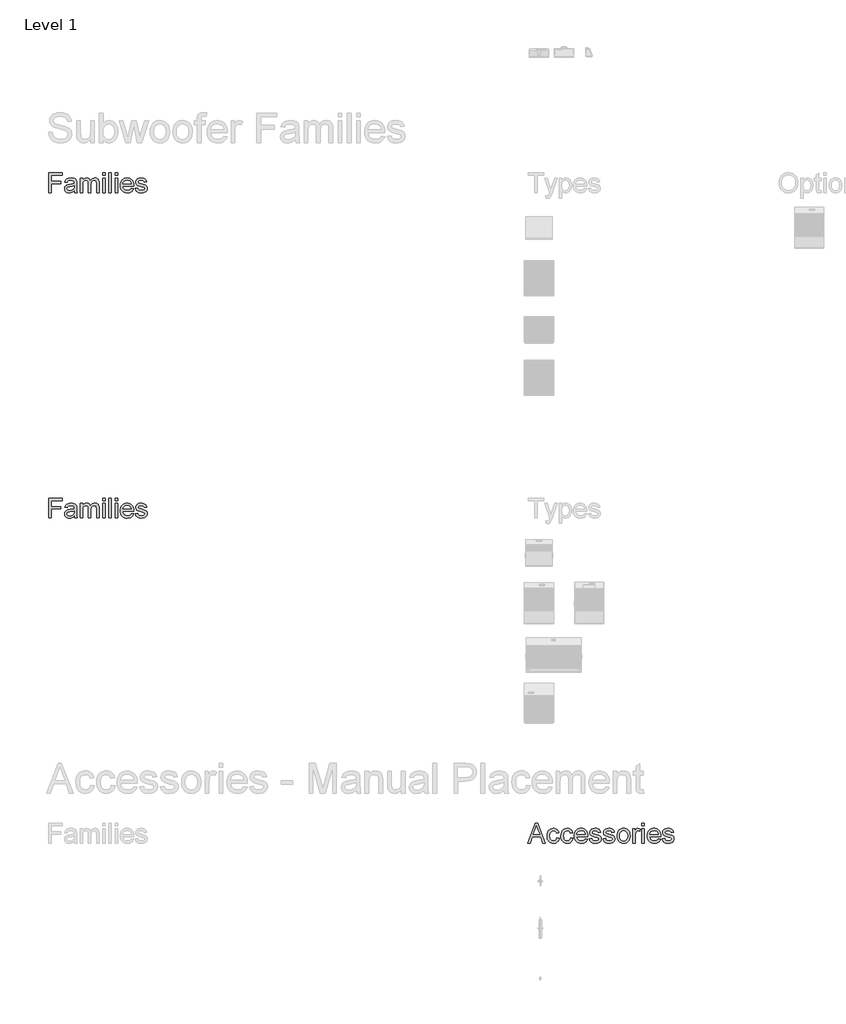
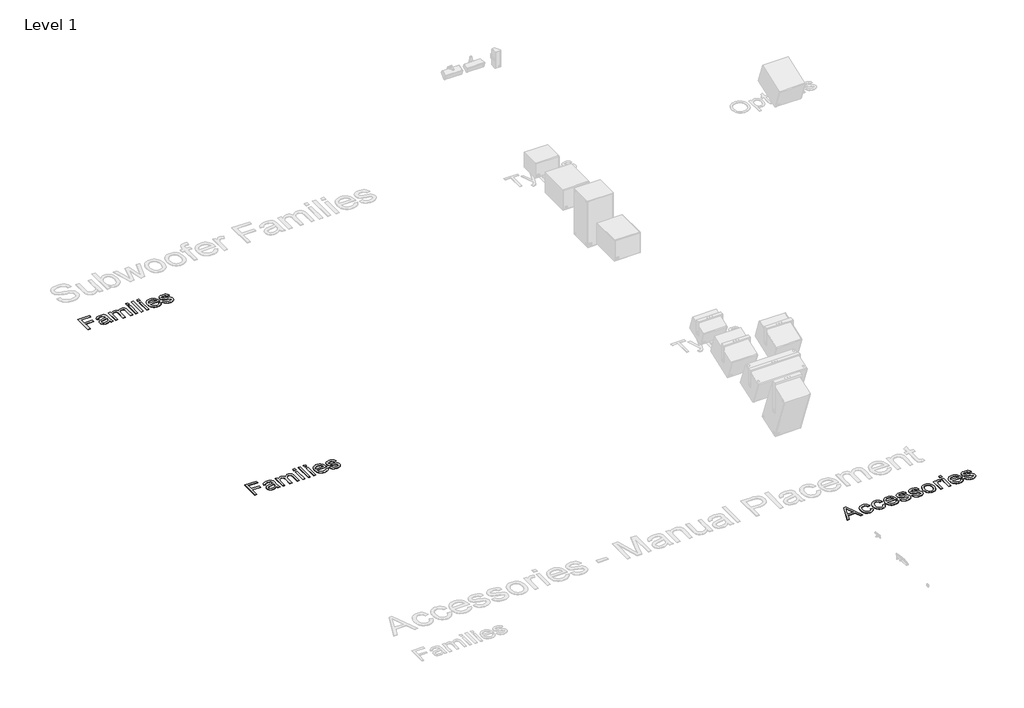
# One storey, part 5 of 12: 3 proxies.
"""IFC4 building model written with IfcOpenShell, lengths in millimetres."""

from ifc_helpers import new_model, si_unit, origin, origin_with_axes, place, context, project, spatial, polyline, outline, extrude, element, save

model = new_model("IFC4")

# Units and contexts
model_context = context("Model", 3, world=origin())
ifc_project = project(units=[si_unit("LENGTHUNIT", "METRE", prefix="MILLI")], contexts=[model_context])

# Site, building, storey
site = spatial("IfcSite", under=ifc_project)
building = spatial("IfcBuilding", under=site)
storey = spatial("IfcBuildingStorey", under=building, Name="Level 1", Elevation=0.0)

# Proxies
placement = place(None, origin())
element("IfcBuildingElementProxy", 1, Name="400mm Arial", ObjectType="400mm Arial", at=placement, inside=storey, context=model_context, shape_type="SweptSolid", body=[
    extrude(outline(polyline([(-11489.5198557, -22148.6945164), (-11333.1420148, -21756.9369407), (-11291.4412572, -21756.9369407), (-11135.0634163, -22148.6945164), (-11186.8067875, -22148.6945164), (-11231.6637951, -22026.270274), (-11393.0151209, -22026.270274), (-11437.7764845, -22148.6945164), (-11489.5198557, -22148.6945164)]), holes=[polyline([(-11375.0340603, -21977.300577), (-11249.5492118, -21977.300577), (-11284.8418254, -21880.9871301), (-11312.291636, -21805.9066376), (-11336.6808406, -21872.5704634), (-11375.0340603, -21977.300577)])]), origin_with_axes(), (0.0, 0.0, 1.0), 5.0),
    extrude(outline(polyline([(-10905.23103, -22044.6339104), (-10856.261333, -22050.7551225), (-10861.5875049, -22073.8621005), (-10869.9145054, -22094.3089814), (-10881.2423344, -22112.0957652), (-10895.5709921, -22127.222452), (-10912.296726, -22139.2945105), (-10930.8157838, -22147.9174094), (-10951.1281654, -22153.0911488), (-10973.2338709, -22154.8157285), (-11000.6986259, -22152.4096857), (-11025.3239514, -22145.1915571), (-11047.1098474, -22133.1613429), (-11066.0563141, -22116.3190429), (-11081.392222, -22094.9814778), (-11092.3464419, -22069.4654681), (-11098.9189739, -22039.7710138), (-11101.1098179, -22005.8981149), (-11097.3677487, -21962.320345), (-11086.1415413, -21924.5529445), (-11067.2518633, -21894.0544833), (-11040.5193822, -21872.2835316), (-11008.53844, -21859.2281339), (-10973.9033785, -21854.8763346), (-10952.1772598, -21856.3707712), (-10932.5254192, -21860.8540808), (-10914.9478564, -21868.3262636), (-10899.4445716, -21878.7873195), (-10886.2785856, -21891.9981386), (-10875.7129192, -21907.7196111), (-10867.7475723, -21925.9517371), (-10862.3825451, -21946.6945164), (-10911.3522421, -21952.8157285), (-10920.235173, -21931.4512636), (-10934.0676777, -21916.1362778), (-10952.0846048, -21906.9185931), (-10973.5208027, -21903.8460316), (-10990.1598593, -21905.3584014), (-11005.1669911, -21909.8955107), (-11018.5421983, -21917.4573597), (-11030.2854807, -21928.0439482), (-11039.8468858, -21941.900364), (-11046.6764608, -21959.2716945), (-11052.1401209, -22004.5590998), (-11046.7960158, -22050.4562352), (-11040.1158844, -22067.9441317), (-11030.7637004, -22081.7915808), (-11019.2535501, -22092.315403), (-11006.0995196, -22099.8324189), (-10991.3016088, -22104.3426284), (-10974.8598179, -22105.8460316), (-10949.5022184, -22102.092007), (-10928.7116171, -22090.8299331), (-10913.5879192, -22071.7728782), (-10905.23103, -22044.6339104)])), origin_with_axes(), (0.0, 0.0, 1.0), 5.0),
    extrude(outline(polyline([(-10629.7764845, -22044.6339104), (-10580.8067875, -22050.7551225), (-10586.1329594, -22073.8621005), (-10594.4599599, -22094.3089814), (-10605.787789, -22112.0957652), (-10620.1164466, -22127.222452), (-10636.8421805, -22139.2945105), (-10655.3612383, -22147.9174094), (-10675.6736199, -22153.0911488), (-10697.7793254, -22154.8157285), (-10725.2440804, -22152.4096857), (-10749.8694059, -22145.1915571), (-10771.655302, -22133.1613429), (-10790.6017686, -22116.3190429), (-10805.9376765, -22094.9814778), (-10816.8918964, -22069.4654681), (-10823.4644284, -22039.7710138), (-10825.6552724, -22005.8981149), (-10821.9132033, -21962.320345), (-10810.6869959, -21924.5529445), (-10791.7973179, -21894.0544833), (-10765.0648368, -21872.2835316), (-10733.0838946, -21859.2281339), (-10698.448833, -21854.8763346), (-10676.7227144, -21856.3707712), (-10657.0708737, -21860.8540808), (-10639.493311, -21868.3262636), (-10623.9900262, -21878.7873195), (-10610.8240402, -21891.9981386), (-10600.2583737, -21907.7196111), (-10592.2930269, -21925.9517371), (-10586.9279997, -21946.6945164), (-10635.8976966, -21952.8157285), (-10644.7806275, -21931.4512636), (-10658.6131322, -21916.1362778), (-10676.6300593, -21906.9185931), (-10698.0662572, -21903.8460316), (-10714.7053138, -21905.3584014), (-10729.7124457, -21909.8955107), (-10743.0876528, -21917.4573597), (-10754.8309353, -21928.0439482), (-10764.3923403, -21941.900364), (-10771.2219154, -21959.2716945), (-10776.6855754, -22004.5590998), (-10771.3414703, -22050.4562352), (-10764.6613389, -22067.9441317), (-10755.309155, -22081.7915808), (-10743.7990046, -22092.315403), (-10730.6449741, -22099.8324189), (-10715.8470634, -22104.3426284), (-10699.4052724, -22105.8460316), (-10674.047673, -22102.092007), (-10653.2570716, -22090.8299331), (-10638.1333737, -22071.7728782), (-10629.7764845, -22044.6339104)])), origin_with_axes(), (0.0, 0.0, 1.0), 5.0),
    extrude(outline(polyline([(-10336.5321663, -22062.9975467), (-10288.5189088, -22069.1187589), (-10295.8805032, -22088.3491684), (-10305.8185063, -22105.2960789), (-10318.332918, -22119.9594904), (-10333.4237383, -22132.3394028), (-10350.9355458, -22142.1727953), (-10370.7129192, -22149.1966471), (-10417.0643633, -22154.8157285), (-10447.4492473, -22152.3917525), (-10474.5224599, -22145.1198242), (-10498.2840011, -22132.9999437), (-10518.7338709, -22116.0321111), (-10535.1786507, -22094.6885683), (-10546.924922, -22069.4415571), (-10553.9726848, -22040.2910777), (-10556.3219391, -22007.2371301), (-10553.9487738, -21973.062355), (-10546.8292781, -21942.9404918), (-10534.9634518, -21916.8715406), (-10518.3512951, -21894.8555013), (-10497.955225, -21877.3646159), (-10474.7376588, -21864.8711263), (-10448.6985963, -21857.3750325), (-10419.8380375, -21854.8763346), (-10391.9070184, -21857.3690548), (-10366.6480518, -21864.8472153), (-10344.0611377, -21877.3108161), (-10324.1462762, -21894.7598573), (-10307.8897954, -21916.7280747), (-10296.2780233, -21942.7492039), (-10289.3109601, -21972.8232451), (-10286.9886057, -22006.9501982), (-10287.2755375, -22020.1490619), (-10507.3522421, -22020.1490619), (-10504.5158015, -22039.6903142), (-10498.875798, -22056.8046017), (-10490.4322314, -22071.4919241), (-10479.1851019, -22083.7522816), (-10450.7668964, -22100.3225941), (-10416.1079239, -22105.8460316), (-10390.0449504, -22103.2875562), (-10368.0946663, -22095.6121301), (-10350.2570716, -22082.3415335), (-10336.5321663, -22062.9975467)]), holes=[polyline([(-10507.3522421, -21971.1793649), (-10335.9583027, -21971.1793649), (-10342.5816455, -21945.3076793), (-10355.5653103, -21926.800577), (-10368.9195953, -21916.7579634), (-10384.1150262, -21909.5846679), (-10420.0293254, -21903.8460316), (-10453.03844, -21908.4249852), (-10480.3328292, -21922.161846), (-10499.3061957, -21943.5741329), (-10507.3522421, -21971.1793649)])]), origin_with_axes(), (0.0, 0.0, 1.0), 5.0),
    extrude(outline(polyline([(-10256.3825451, -22062.9975467), (-10207.4128482, -22056.8763346), (-10199.6896, -22077.8223573), (-10184.7452345, -22093.2210316), (-10162.4841076, -22102.6897816), (-10132.8105754, -22105.8460316), (-10103.495708, -22102.9528024), (-10082.8844391, -22094.2731149), (-10070.6898368, -22081.6959369), (-10066.6249694, -22067.1102361), (-10070.7137478, -22054.628702), (-10082.980083, -22045.1121301), (-10133.3844391, -22031.1481149), (-10207.1259163, -22007.1893081), (-10225.78844, -21995.1501272), (-10239.3101019, -21979.2134558), (-10247.5235252, -21960.3955107), (-10250.261333, -21939.7125089), (-10248.0615224, -21920.7391424), (-10241.4620906, -21903.224346), (-10231.0608122, -21887.8615382), (-10217.4554618, -21875.3441376), (-10186.3233595, -21860.8540808), (-10144.1922042, -21854.8763346), (-10112.3188614, -21857.2793886), (-10084.60603, -21864.4885505), (-10062.3209921, -21875.7984464), (-10046.73103, -21890.503702), (-10036.4014845, -21909.6922674), (-10029.8976966, -21934.4520922), (-10078.8673936, -21940.5733043), (-10085.0483832, -21925.1626746), (-10097.2788519, -21913.5538914), (-10115.6783548, -21906.2729965), (-10140.3664466, -21903.8460316), (-10168.4857648, -21906.1653971), (-10187.2319769, -21913.1234937), (-10197.7767213, -21923.1661073), (-10201.291636, -21934.739024), (-10195.4573557, -21948.989971), (-10177.1893633, -21959.7977361), (-10135.010386, -21970.2229255), (-10063.1339656, -21993.2731149), (-10044.1486436, -22004.2960789), (-10029.7542307, -22019.3839104), (-10020.680012, -22038.5844312), (-10017.6552724, -22061.9454634), (-10021.2060536, -22086.0955581), (-10031.8583974, -22108.8109937), (-10049.2058169, -22128.3104018), (-10072.8418254, -22142.8124142), (-10101.3915413, -22151.8149), (-10133.480083, -22154.8157285), (-10159.8359661, -22153.369114), (-10182.8562667, -22149.0292702), (-10202.540985, -22141.7961973), (-10218.8901209, -22131.6698952), (-10232.2444059, -22118.6981859), (-10242.9445716, -22102.9288914), (-10250.990618, -22084.3620117), (-10256.3825451, -22062.9975467)])), origin_with_axes(), (0.0, 0.0, 1.0), 5.0),
    extrude(outline(polyline([(-9980.9279997, -22062.9975467), (-9931.9583027, -22056.8763346), (-9924.2350546, -22077.8223573), (-9909.2906891, -22093.2210316), (-9887.0295622, -22102.6897816), (-9857.35603, -22105.8460316), (-9828.0411625, -22102.9528024), (-9807.4298936, -22094.2731149), (-9795.2352913, -22081.6959369), (-9791.1704239, -22067.1102361), (-9795.2592023, -22054.628702), (-9807.5255375, -22045.1121301), (-9857.9298936, -22031.1481149), (-9931.6713709, -22007.1893081), (-9950.3338946, -21995.1501272), (-9963.8555565, -21979.2134558), (-9972.0689798, -21960.3955107), (-9974.8067875, -21939.7125089), (-9972.6069769, -21920.7391424), (-9966.0075451, -21903.224346), (-9955.6062667, -21887.8615382), (-9942.0009163, -21875.3441376), (-9910.8688141, -21860.8540808), (-9868.7376588, -21854.8763346), (-9836.864316, -21857.2793886), (-9809.1514845, -21864.4885505), (-9786.8664466, -21875.7984464), (-9771.2764845, -21890.503702), (-9760.9469391, -21909.6922674), (-9754.4431512, -21934.4520922), (-9803.4128482, -21940.5733043), (-9809.5938377, -21925.1626746), (-9821.8243065, -21913.5538914), (-9840.2238093, -21906.2729965), (-9864.9119012, -21903.8460316), (-9893.0312194, -21906.1653971), (-9911.7774315, -21913.1234937), (-9922.3221758, -21923.1661073), (-9925.8370906, -21934.739024), (-9920.0028103, -21948.989971), (-9901.7348179, -21959.7977361), (-9859.5558406, -21970.2229255), (-9787.6794201, -21993.2731149), (-9768.6940982, -22004.2960789), (-9754.2996853, -22019.3839104), (-9745.2254665, -22038.5844312), (-9742.2007269, -22061.9454634), (-9745.7515082, -22086.0955581), (-9756.4038519, -22108.8109937), (-9773.7512714, -22128.3104018), (-9797.38728, -22142.8124142), (-9825.9369959, -22151.8149), (-9858.0255375, -22154.8157285), (-9884.3814206, -22153.369114), (-9907.4017213, -22149.0292702), (-9927.0864395, -22141.7961973), (-9943.4355754, -22131.6698952), (-9956.7898605, -22118.6981859), (-9967.4900262, -22102.9288914), (-9975.5360726, -22084.3620117), (-9980.9279997, -22062.9975467)])), origin_with_axes(), (0.0, 0.0, 1.0), 5.0),
    extrude(outline(polyline([(-9699.3522421, -22004.8460316), (-9696.7041005, -21967.5867394), (-9688.7596758, -21935.4802645), (-9675.5189679, -21908.5266069), (-9656.9819769, -21886.7257664), (-9638.3194533, -21872.79164), (-9617.7201398, -21862.8386926), (-9595.1840366, -21856.8669241), (-9570.7111436, -21854.8763346), (-9543.6947196, -21857.3003107), (-9519.2666597, -21864.572239), (-9497.4269639, -21876.6921194), (-9478.1756322, -21893.659952), (-9462.4631263, -21914.9018732), (-9451.2399078, -21939.8440193), (-9444.5059767, -21968.4863902), (-9442.261333, -22000.8289861), (-9446.2305565, -22050.3008138), (-9458.1382269, -22087.9606149), (-9477.6376351, -22116.1636215), (-9504.3820716, -22137.2650657), (-9536.147815, -22150.4280628), (-9570.7111436, -22154.8157285), (-9598.1220989, -22152.4007191), (-9622.7773131, -22145.1556907), (-9644.6767864, -22133.0806433), (-9663.8205186, -22116.175577), (-9679.3656476, -22094.7274236), (-9690.4693112, -22069.0231149), (-9697.1315094, -22039.0626509), (-9699.3522421, -22004.8460316)]), holes=[polyline([(-9650.3825451, -22004.7503876), (-9648.9658193, -22028.5029622), (-9644.7156417, -22049.0693981), (-9637.6320125, -22066.4496952), (-9627.7149315, -22080.6438535), (-9615.6518396, -22091.6698064), (-9602.1301777, -22099.5454871), (-9587.1499457, -22104.2708955), (-9570.7111436, -22105.8460316), (-9554.35603, -22104.2619288), (-9539.4355754, -22099.5096206), (-9525.94978, -22091.5891069), (-9513.8986436, -22080.5003876), (-9503.9815626, -22066.1657522), (-9496.8979334, -22048.5074899), (-9492.6477558, -22027.5256007), (-9491.23103, -22003.2200846), (-9492.6567224, -21980.2207061), (-9496.9337999, -21960.1922674), (-9504.0622622, -21943.1347686), (-9514.0421095, -21929.0482096), (-9526.138079, -21918.0222567), (-9539.6149078, -21910.1465761), (-9554.472596, -21905.4211677), (-9570.7111436, -21903.8460316), (-9587.1499457, -21905.41519), (-9602.1301777, -21910.1226651), (-9615.6518396, -21917.968457), (-9627.7149315, -21928.9525657), (-9637.6320125, -21943.1048798), (-9644.7156417, -21960.4552882), (-9648.9658193, -21981.0037908), (-9650.3825451, -22004.7503876)])]), origin_with_axes(), (0.0, 0.0, 1.0), 5.0),
    extrude(outline(polyline([(-9387.1704239, -22148.6945164), (-9387.1704239, -21860.9975467), (-9344.3219391, -21860.9975467), (-9344.3219391, -21903.5590998), (-9328.4928671, -21878.8829634), (-9313.9071663, -21864.3450846), (-9299.2736436, -21857.2435221), (-9283.3011057, -21854.8763346), (-9258.9119012, -21858.6542702), (-9234.1401209, -21869.988077), (-9250.4952345, -21913.8886452), (-9267.7111436, -21906.356685), (-9284.9270527, -21903.8460316), (-9299.5486199, -21906.261041), (-9312.6159732, -21913.5060695), (-9323.172673, -21925.0311642), (-9330.26228, -21940.2863725), (-9336.2161152, -21967.6405392), (-9338.2007269, -21997.4814482), (-9338.2007269, -22148.6945164), (-9387.1704239, -22148.6945164)])), origin_with_axes(), (0.0, 0.0, 1.0), 5.0),
    extrude(outline(polyline([(-9203.5340603, -22148.6945164), (-9203.5340603, -21860.9975467), (-9154.5643633, -21860.9975467), (-9154.5643633, -22148.6945164), (-9203.5340603, -22148.6945164)])), origin_with_axes(), (0.0, 0.0, 1.0), 5.0),
    extrude(outline(polyline([(-9203.5340603, -21805.9066376), (-9203.5340603, -21756.9369407), (-9154.5643633, -21756.9369407), (-9154.5643633, -21805.9066376), (-9203.5340603, -21805.9066376)])), origin_with_axes(), (0.0, 0.0, 1.0), 5.0),
    extrude(outline(polyline([(-8879.6836815, -22062.9975467), (-8831.6704239, -22069.1187589), (-8839.0320184, -22088.3491684), (-8848.9700214, -22105.2960789), (-8861.4844331, -22119.9594904), (-8876.5752535, -22132.3394028), (-8894.087061, -22142.1727953), (-8913.8644343, -22149.1966471), (-8960.2158785, -22154.8157285), (-8990.6007625, -22152.3917525), (-9017.673975, -22145.1198242), (-9041.4355162, -22132.9999437), (-9061.885386, -22116.0321111), (-9078.3301659, -22094.6885683), (-9090.0764372, -22069.4415571), (-9097.1242, -22040.2910777), (-9099.4734542, -22007.2371301), (-9097.100289, -21973.062355), (-9089.9807932, -21942.9404918), (-9078.114967, -21916.8715406), (-9061.5028103, -21894.8555013), (-9041.1067402, -21877.3646159), (-9017.8891739, -21864.8711263), (-8991.8501114, -21857.3750325), (-8962.9895527, -21854.8763346), (-8935.0585335, -21857.3690548), (-8909.7995669, -21864.8472153), (-8887.2126528, -21877.3108161), (-8867.2977913, -21894.7598573), (-8851.0413105, -21916.7280747), (-8839.4295385, -21942.7492039), (-8832.4624753, -21972.8232451), (-8830.1401209, -22006.9501982), (-8830.4270527, -22020.1490619), (-9050.5037572, -22020.1490619), (-9047.6673167, -22039.6903142), (-9042.0273131, -22056.8046017), (-9033.5837466, -22071.4919241), (-9022.3366171, -22083.7522816), (-8993.9184116, -22100.3225941), (-8959.2594391, -22105.8460316), (-8933.1964656, -22103.2875562), (-8911.2461815, -22095.6121301), (-8893.4085868, -22082.3415335), (-8879.6836815, -22062.9975467)]), holes=[polyline([(-9050.5037572, -21971.1793649), (-8879.1098179, -21971.1793649), (-8885.7331607, -21945.3076793), (-8898.7168254, -21926.800577), (-8912.0711105, -21916.7579634), (-8927.2665413, -21909.5846679), (-8963.1808406, -21903.8460316), (-8996.1899552, -21908.4249852), (-9023.4843444, -21922.161846), (-9042.4577108, -21943.5741329), (-9050.5037572, -21971.1793649)])]), origin_with_axes(), (0.0, 0.0, 1.0), 5.0),
    extrude(outline(polyline([(-8799.5340603, -22062.9975467), (-8750.5643633, -22056.8763346), (-8742.8411152, -22077.8223573), (-8727.8967497, -22093.2210316), (-8705.6356228, -22102.6897816), (-8675.9620906, -22105.8460316), (-8646.6472232, -22102.9528024), (-8626.0359542, -22094.2731149), (-8613.8413519, -22081.6959369), (-8609.7764845, -22067.1102361), (-8613.8652629, -22054.628702), (-8626.1315982, -22045.1121301), (-8676.5359542, -22031.1481149), (-8750.2774315, -22007.1893081), (-8768.9399552, -21995.1501272), (-8782.4616171, -21979.2134558), (-8790.6750404, -21960.3955107), (-8793.4128482, -21939.7125089), (-8791.2130375, -21920.7391424), (-8784.6136057, -21903.224346), (-8774.2123273, -21887.8615382), (-8760.6069769, -21875.3441376), (-8729.4748747, -21860.8540808), (-8687.3437194, -21854.8763346), (-8655.4703766, -21857.2793886), (-8627.7575451, -21864.4885505), (-8605.4725072, -21875.7984464), (-8589.8825451, -21890.503702), (-8579.5529997, -21909.6922674), (-8573.0492118, -21934.4520922), (-8622.0189088, -21940.5733043), (-8628.1998983, -21925.1626746), (-8640.4303671, -21913.5538914), (-8658.8298699, -21906.2729965), (-8683.5179618, -21903.8460316), (-8711.63728, -21906.1653971), (-8730.3834921, -21913.1234937), (-8740.9282364, -21923.1661073), (-8744.4431512, -21934.739024), (-8738.6088709, -21948.989971), (-8720.3408785, -21959.7977361), (-8678.1619012, -21970.2229255), (-8606.2854807, -21993.2731149), (-8587.3001588, -22004.2960789), (-8572.9057459, -22019.3839104), (-8563.8315271, -22038.5844312), (-8560.8067875, -22061.9454634), (-8564.3575688, -22086.0955581), (-8575.0099125, -22108.8109937), (-8592.3573321, -22128.3104018), (-8615.9933406, -22142.8124142), (-8644.5430565, -22151.8149), (-8676.6315982, -22154.8157285), (-8702.9874812, -22153.369114), (-8726.0077819, -22149.0292702), (-8745.6925001, -22141.7961973), (-8762.041636, -22131.6698952), (-8775.3959211, -22118.6981859), (-8786.0960868, -22102.9288914), (-8794.1421332, -22084.3620117), (-8799.5340603, -22062.9975467)])), origin_with_axes(), (0.0, 0.0, 1.0), 5.0),
])
element("IfcBuildingElementProxy", 2, Name="400mm Arial", ObjectType="400mm Arial", at=placement, inside=storey, context=model_context, shape_type="SweptSolid", body=[
    extrude(outline(polyline([(-21056.720891, -9148.6945164), (-21056.720891, -8756.9369407), (-20793.5087698, -8756.9369407), (-20793.5087698, -8805.9066376), (-21007.7511941, -8805.9066376), (-21007.7511941, -8922.2096679), (-20824.1148304, -8922.2096679), (-20824.1148304, -8971.1793649), (-21007.7511941, -8971.1793649), (-21007.7511941, -9148.6945164), (-21056.720891, -9148.6945164)])), origin_with_axes(), (0.0, 0.0, 1.0), 5.0),
    extrude(outline(polyline([(-20548.660285, -9111.9672437), (-20572.0571836, -9132.02856), (-20596.1475009, -9145.1556907), (-20621.4811893, -9152.4007191), (-20648.6082016, -9154.8157285), (-20670.4120309, -9153.3631362), (-20689.5318522, -9149.0053592), (-20705.9676654, -9141.7423976), (-20719.7194706, -9131.5742513), (-20730.5780466, -9119.1465169), (-20738.3341723, -9105.104791), (-20742.9878477, -9089.4490737), (-20744.5390729, -9072.1793649), (-20742.1957963, -9051.8789388), (-20735.1659668, -9033.4435695), (-20724.3223352, -9017.6623195), (-20710.5376524, -9005.3242513), (-20676.2493001, -8989.2560695), (-20633.879035, -8981.8914861), (-20583.8094327, -8974.144327), (-20548.9472168, -8965.0581528), (-20548.660285, -8954.1547437), (-20552.0317338, -8932.3001035), (-20562.1460804, -8918.0013346), (-20584.7658721, -8907.3848573), (-20616.2805501, -8903.8460316), (-20645.4519516, -8906.2012636), (-20665.8241107, -8913.2669596), (-20679.7163929, -8926.3343128), (-20689.4481638, -8946.6945164), (-20738.4178607, -8940.5733043), (-20729.9175056, -8913.7930013), (-20717.2327282, -8892.7513346), (-20699.1799346, -8876.6592418), (-20674.5755312, -8864.7276604), (-20644.4835568, -8857.339166), (-20609.9680501, -8854.8763346), (-20576.8632916, -8857.0522342), (-20550.6209857, -8863.5799331), (-20530.8346458, -8873.3953924), (-20517.097785, -8885.4345732), (-20507.9876997, -8900.3191613), (-20502.0816865, -8918.6708422), (-20499.690588, -8961.519327), (-20499.690588, -9022.4445164), (-20497.2038456, -9107.5198005), (-20487.4481638, -9148.6945164), (-20536.4178607, -9148.6945164), (-20544.2606638, -9131.6698952), (-20548.660285, -9111.9672437)]), holes=[polyline([(-20548.660285, -9014.0278498), (-20581.5618001, -9022.1814956), (-20627.6621789, -9029.0439482), (-20669.7933342, -9036.9823952), (-20680.7565208, -9042.4101888), (-20688.8743001, -9049.894327), (-20693.8956069, -9058.8609464), (-20695.5693759, -9068.7361831), (-20691.9229507, -9083.2979729), (-20680.9836751, -9095.2295543), (-20662.990659, -9103.1919123), (-20638.1830122, -9105.8460316), (-20611.8809289, -9102.9169359), (-20588.6394516, -9094.129649), (-20569.7975956, -9081.1818507), (-20556.6943759, -9065.771221), (-20550.8840066, -9049.894327), (-20548.9472168, -9027.896221), (-20548.660285, -9014.0278498)])]), origin_with_axes(), (0.0, 0.0, 1.0), 5.0),
    extrude(outline(polyline([(-20432.3572547, -9148.6945164), (-20432.3572547, -8860.9975467), (-20383.3875577, -8860.9975467), (-20383.3875577, -8908.3412967), (-20368.658391, -8886.594256), (-20349.720891, -8869.5576793), (-20327.2206543, -8858.5466708), (-20301.8032774, -8854.8763346), (-20274.5686657, -8858.6184037), (-20252.7379365, -8869.8446111), (-20236.4306448, -8887.8137162), (-20225.7663456, -8911.7844785), (-20207.9167954, -8886.8871656), (-20187.5565918, -8869.1033706), (-20164.6857348, -8858.4330936), (-20139.3042244, -8854.8763346), (-20119.7002057, -8856.3558268), (-20102.4932632, -8860.7943034), (-20087.683397, -8868.1917643), (-20075.2706069, -8878.5482096), (-20065.4581365, -8891.9831942), (-20058.4492291, -8908.6162731), (-20054.2438846, -8928.4474461), (-20052.8421032, -8951.4767134), (-20052.8421032, -9148.6945164), (-20101.8118001, -9148.6945164), (-20101.8118001, -8972.5183801), (-20106.3548872, -8931.630596), (-20112.7391202, -8920.3565666), (-20122.8056448, -8911.4975467), (-20135.7534431, -8905.7589104), (-20150.7814971, -8903.8460316), (-20177.3107348, -8908.7477835), (-20198.9382206, -8923.4530392), (-20207.3279874, -8934.7330463), (-20213.320678, -8948.96606), (-20218.1148304, -8986.2911073), (-20218.1148304, -9148.6945164), (-20267.0845274, -9148.6945164), (-20267.0845274, -8967.0666755), (-20269.9179791, -8939.3777551), (-20278.4183342, -8919.6272816), (-20293.3746552, -8907.7913441), (-20315.5760047, -8903.8460316), (-20334.4417717, -8906.4762399), (-20351.8250577, -8914.3668649), (-20366.1716486, -8927.3266187), (-20375.9273304, -8945.1642134), (-20381.5225009, -8969.9120827), (-20383.3875577, -9003.6026604), (-20383.3875577, -9148.6945164), (-20432.3572547, -9148.6945164)])), origin_with_axes(), (0.0, 0.0, 1.0), 5.0),
    extrude(outline(polyline([(-19979.3875577, -9148.6945164), (-19979.3875577, -8860.9975467), (-19930.4178607, -8860.9975467), (-19930.4178607, -9148.6945164), (-19979.3875577, -9148.6945164)])), origin_with_axes(), (0.0, 0.0, 1.0), 5.0),
    extrude(outline(polyline([(-19979.3875577, -8805.9066376), (-19979.3875577, -8756.9369407), (-19930.4178607, -8756.9369407), (-19930.4178607, -8805.9066376), (-19979.3875577, -8805.9066376)])), origin_with_axes(), (0.0, 0.0, 1.0), 5.0),
    extrude(outline(polyline([(-19856.9633153, -9148.6945164), (-19856.9633153, -8756.9369407), (-19807.9936183, -8756.9369407), (-19807.9936183, -9148.6945164), (-19856.9633153, -9148.6945164)])), origin_with_axes(), (0.0, 0.0, 1.0), 5.0),
    extrude(outline(polyline([(-19734.5390729, -9148.6945164), (-19734.5390729, -8860.9975467), (-19685.5693759, -8860.9975467), (-19685.5693759, -9148.6945164), (-19734.5390729, -9148.6945164)])), origin_with_axes(), (0.0, 0.0, 1.0), 5.0),
    extrude(outline(polyline([(-19734.5390729, -8805.9066376), (-19734.5390729, -8756.9369407), (-19685.5693759, -8756.9369407), (-19685.5693759, -8805.9066376), (-19734.5390729, -8805.9066376)])), origin_with_axes(), (0.0, 0.0, 1.0), 5.0),
    extrude(outline(polyline([(-19410.6886941, -9062.9975467), (-19362.6754365, -9069.1187589), (-19370.0370309, -9088.3491684), (-19379.975034, -9105.2960789), (-19392.4894457, -9119.9594904), (-19407.580266, -9132.3394028), (-19425.0920736, -9142.1727953), (-19444.8694469, -9149.1966471), (-19491.220891, -9154.8157285), (-19521.605775, -9152.3917525), (-19548.6789876, -9145.1198242), (-19572.4405288, -9132.9999437), (-19592.8903986, -9116.0321111), (-19609.3351784, -9094.6885683), (-19621.0814497, -9069.4415571), (-19628.1292125, -9040.2910777), (-19630.4784668, -9007.2371301), (-19628.1053015, -8973.062355), (-19620.9858058, -8942.9404918), (-19609.1199796, -8916.8715406), (-19592.5078229, -8894.8555013), (-19572.1117528, -8877.3646159), (-19548.8941865, -8864.8711263), (-19522.855124, -8857.3750325), (-19493.9945653, -8854.8763346), (-19466.0635461, -8857.3690548), (-19440.8045795, -8864.8472153), (-19418.2176654, -8877.3108161), (-19398.3028039, -8894.7598573), (-19382.0463231, -8916.7280747), (-19370.4345511, -8942.7492039), (-19363.4674879, -8972.8232451), (-19361.1451335, -9006.9501982), (-19361.4320653, -9020.1490619), (-19581.5087698, -9020.1490619), (-19578.6723292, -9039.6903142), (-19573.0323257, -9056.8046017), (-19564.5887592, -9071.4919241), (-19553.3416297, -9083.7522816), (-19524.9234242, -9100.3225941), (-19490.2644516, -9105.8460316), (-19464.2014782, -9103.2875562), (-19442.2511941, -9095.6121301), (-19424.4135994, -9082.3415335), (-19410.6886941, -9062.9975467)]), holes=[polyline([(-19581.5087698, -8971.1793649), (-19410.1148304, -8971.1793649), (-19416.7381732, -8945.3076793), (-19429.721838, -8926.800577), (-19443.076123, -8916.7579634), (-19458.2715539, -8909.5846679), (-19494.1858532, -8903.8460316), (-19527.1949677, -8908.4249852), (-19554.4893569, -8922.161846), (-19573.4627234, -8943.5741329), (-19581.5087698, -8971.1793649)])]), origin_with_axes(), (0.0, 0.0, 1.0), 5.0),
    extrude(outline(polyline([(-19330.5390729, -9062.9975467), (-19281.5693759, -9056.8763346), (-19273.8461278, -9077.8223573), (-19258.9017622, -9093.2210316), (-19236.6406354, -9102.6897816), (-19206.9671032, -9105.8460316), (-19177.6522357, -9102.9528024), (-19157.0409668, -9094.2731149), (-19144.8463645, -9081.6959369), (-19140.7814971, -9067.1102361), (-19144.8702755, -9054.628702), (-19157.1366107, -9045.1121301), (-19207.5409668, -9031.1481149), (-19281.2824441, -9007.1893081), (-19299.9449677, -8995.1501272), (-19313.4666297, -8979.2134558), (-19321.680053, -8960.3955107), (-19324.4178607, -8939.7125089), (-19322.2180501, -8920.7391424), (-19315.6186183, -8903.224346), (-19305.2173399, -8887.8615382), (-19291.6119895, -8875.3441376), (-19260.4798872, -8860.8540808), (-19218.3487319, -8854.8763346), (-19186.4753891, -8857.2793886), (-19158.7625577, -8864.4885505), (-19136.4775198, -8875.7984464), (-19120.8875577, -8890.503702), (-19110.5580122, -8909.6922674), (-19104.0542244, -8934.4520922), (-19153.0239213, -8940.5733043), (-19159.2049109, -8925.1626746), (-19171.4353797, -8913.5538914), (-19189.8348825, -8906.2729965), (-19214.5229744, -8903.8460316), (-19242.6422925, -8906.1653971), (-19261.3885047, -8913.1234937), (-19271.933249, -8923.1661073), (-19275.4481638, -8934.739024), (-19269.6138835, -8948.989971), (-19251.345891, -8959.7977361), (-19209.1669138, -8970.2229255), (-19137.2904933, -8993.2731149), (-19118.3051713, -9004.2960789), (-19103.9107585, -9019.3839104), (-19094.8365397, -9038.5844312), (-19091.8118001, -9061.9454634), (-19095.3625814, -9086.0955581), (-19106.0149251, -9108.8109937), (-19123.3623446, -9128.3104018), (-19146.9983532, -9142.8124142), (-19175.5480691, -9151.8149), (-19207.6366107, -9154.8157285), (-19233.9924938, -9153.369114), (-19257.0127944, -9149.0292702), (-19276.6975127, -9141.7961973), (-19293.0466486, -9131.6698952), (-19306.4009336, -9118.6981859), (-19317.1010994, -9102.9288914), (-19325.1471458, -9084.3620117), (-19330.5390729, -9062.9975467)])), origin_with_axes(), (0.0, 0.0, 1.0), 5.0),
])
element("IfcBuildingElementProxy", 3, Name="400mm Arial", ObjectType="400mm Arial", at=placement, inside=storey, context=model_context, shape_type="SweptSolid", body=[
    extrude(outline(polyline([(-21056.720891, -15648.6945164), (-21056.720891, -15256.9369407), (-20793.5087698, -15256.9369407), (-20793.5087698, -15305.9066376), (-21007.7511941, -15305.9066376), (-21007.7511941, -15422.2096679), (-20824.1148304, -15422.2096679), (-20824.1148304, -15471.1793649), (-21007.7511941, -15471.1793649), (-21007.7511941, -15648.6945164), (-21056.720891, -15648.6945164)])), origin_with_axes(), (0.0, 0.0, 1.0), 5.0),
    extrude(outline(polyline([(-20548.660285, -15611.9672437), (-20572.0571836, -15632.02856), (-20596.1475009, -15645.1556907), (-20621.4811893, -15652.4007191), (-20648.6082016, -15654.8157285), (-20670.4120309, -15653.3631362), (-20689.5318522, -15649.0053592), (-20705.9676654, -15641.7423976), (-20719.7194706, -15631.5742513), (-20730.5780466, -15619.1465169), (-20738.3341723, -15605.104791), (-20742.9878477, -15589.4490737), (-20744.5390729, -15572.1793649), (-20742.1957963, -15551.8789388), (-20735.1659668, -15533.4435695), (-20724.3223352, -15517.6623195), (-20710.5376524, -15505.3242513), (-20676.2493001, -15489.2560695), (-20633.879035, -15481.8914861), (-20583.8094327, -15474.144327), (-20548.9472168, -15465.0581528), (-20548.660285, -15454.1547437), (-20552.0317338, -15432.3001035), (-20562.1460804, -15418.0013346), (-20584.7658721, -15407.3848573), (-20616.2805501, -15403.8460316), (-20645.4519516, -15406.2012636), (-20665.8241107, -15413.2669596), (-20679.7163929, -15426.3343128), (-20689.4481638, -15446.6945164), (-20738.4178607, -15440.5733043), (-20729.9175056, -15413.7930013), (-20717.2327282, -15392.7513346), (-20699.1799346, -15376.6592418), (-20674.5755312, -15364.7276604), (-20644.4835568, -15357.339166), (-20609.9680501, -15354.8763346), (-20576.8632916, -15357.0522342), (-20550.6209857, -15363.5799331), (-20530.8346458, -15373.3953924), (-20517.097785, -15385.4345732), (-20507.9876997, -15400.3191613), (-20502.0816865, -15418.6708422), (-20499.690588, -15461.519327), (-20499.690588, -15522.4445164), (-20497.2038456, -15607.5198005), (-20487.4481638, -15648.6945164), (-20536.4178607, -15648.6945164), (-20544.2606638, -15631.6698952), (-20548.660285, -15611.9672437)]), holes=[polyline([(-20548.660285, -15514.0278498), (-20581.5618001, -15522.1814956), (-20627.6621789, -15529.0439482), (-20669.7933342, -15536.9823952), (-20680.7565208, -15542.4101888), (-20688.8743001, -15549.894327), (-20693.8956069, -15558.8609464), (-20695.5693759, -15568.7361831), (-20691.9229507, -15583.2979729), (-20680.9836751, -15595.2295543), (-20662.990659, -15603.1919123), (-20638.1830122, -15605.8460316), (-20611.8809289, -15602.9169359), (-20588.6394516, -15594.129649), (-20569.7975956, -15581.1818507), (-20556.6943759, -15565.771221), (-20550.8840066, -15549.894327), (-20548.9472168, -15527.896221), (-20548.660285, -15514.0278498)])]), origin_with_axes(), (0.0, 0.0, 1.0), 5.0),
    extrude(outline(polyline([(-20432.3572547, -15648.6945164), (-20432.3572547, -15360.9975467), (-20383.3875577, -15360.9975467), (-20383.3875577, -15408.3412967), (-20368.658391, -15386.594256), (-20349.720891, -15369.5576793), (-20327.2206543, -15358.5466708), (-20301.8032774, -15354.8763346), (-20274.5686657, -15358.6184037), (-20252.7379365, -15369.8446111), (-20236.4306448, -15387.8137162), (-20225.7663456, -15411.7844785), (-20207.9167954, -15386.8871656), (-20187.5565918, -15369.1033706), (-20164.6857348, -15358.4330936), (-20139.3042244, -15354.8763346), (-20119.7002057, -15356.3558268), (-20102.4932632, -15360.7943034), (-20087.683397, -15368.1917643), (-20075.2706069, -15378.5482096), (-20065.4581365, -15391.9831942), (-20058.4492291, -15408.6162731), (-20054.2438846, -15428.4474461), (-20052.8421032, -15451.4767134), (-20052.8421032, -15648.6945164), (-20101.8118001, -15648.6945164), (-20101.8118001, -15472.5183801), (-20106.3548872, -15431.630596), (-20112.7391202, -15420.3565666), (-20122.8056448, -15411.4975467), (-20135.7534431, -15405.7589104), (-20150.7814971, -15403.8460316), (-20177.3107348, -15408.7477835), (-20198.9382206, -15423.4530392), (-20207.3279874, -15434.7330463), (-20213.320678, -15448.96606), (-20218.1148304, -15486.2911073), (-20218.1148304, -15648.6945164), (-20267.0845274, -15648.6945164), (-20267.0845274, -15467.0666755), (-20269.9179791, -15439.3777551), (-20278.4183342, -15419.6272816), (-20293.3746552, -15407.7913441), (-20315.5760047, -15403.8460316), (-20334.4417717, -15406.4762399), (-20351.8250577, -15414.3668649), (-20366.1716486, -15427.3266187), (-20375.9273304, -15445.1642134), (-20381.5225009, -15469.9120827), (-20383.3875577, -15503.6026604), (-20383.3875577, -15648.6945164), (-20432.3572547, -15648.6945164)])), origin_with_axes(), (0.0, 0.0, 1.0), 5.0),
    extrude(outline(polyline([(-19979.3875577, -15648.6945164), (-19979.3875577, -15360.9975467), (-19930.4178607, -15360.9975467), (-19930.4178607, -15648.6945164), (-19979.3875577, -15648.6945164)])), origin_with_axes(), (0.0, 0.0, 1.0), 5.0),
    extrude(outline(polyline([(-19979.3875577, -15305.9066376), (-19979.3875577, -15256.9369407), (-19930.4178607, -15256.9369407), (-19930.4178607, -15305.9066376), (-19979.3875577, -15305.9066376)])), origin_with_axes(), (0.0, 0.0, 1.0), 5.0),
    extrude(outline(polyline([(-19856.9633153, -15648.6945164), (-19856.9633153, -15256.9369407), (-19807.9936183, -15256.9369407), (-19807.9936183, -15648.6945164), (-19856.9633153, -15648.6945164)])), origin_with_axes(), (0.0, 0.0, 1.0), 5.0),
    extrude(outline(polyline([(-19734.5390729, -15648.6945164), (-19734.5390729, -15360.9975467), (-19685.5693759, -15360.9975467), (-19685.5693759, -15648.6945164), (-19734.5390729, -15648.6945164)])), origin_with_axes(), (0.0, 0.0, 1.0), 5.0),
    extrude(outline(polyline([(-19734.5390729, -15305.9066376), (-19734.5390729, -15256.9369407), (-19685.5693759, -15256.9369407), (-19685.5693759, -15305.9066376), (-19734.5390729, -15305.9066376)])), origin_with_axes(), (0.0, 0.0, 1.0), 5.0),
    extrude(outline(polyline([(-19410.6886941, -15562.9975467), (-19362.6754365, -15569.1187589), (-19370.0370309, -15588.3491684), (-19379.975034, -15605.2960789), (-19392.4894457, -15619.9594904), (-19407.580266, -15632.3394028), (-19425.0920736, -15642.1727953), (-19444.8694469, -15649.1966471), (-19491.220891, -15654.8157285), (-19521.605775, -15652.3917525), (-19548.6789876, -15645.1198242), (-19572.4405288, -15632.9999437), (-19592.8903986, -15616.0321111), (-19609.3351784, -15594.6885683), (-19621.0814497, -15569.4415571), (-19628.1292125, -15540.2910777), (-19630.4784668, -15507.2371301), (-19628.1053015, -15473.062355), (-19620.9858058, -15442.9404918), (-19609.1199796, -15416.8715406), (-19592.5078229, -15394.8555013), (-19572.1117528, -15377.3646159), (-19548.8941865, -15364.8711263), (-19522.855124, -15357.3750325), (-19493.9945653, -15354.8763346), (-19466.0635461, -15357.3690548), (-19440.8045795, -15364.8472153), (-19418.2176654, -15377.3108161), (-19398.3028039, -15394.7598573), (-19382.0463231, -15416.7280747), (-19370.4345511, -15442.7492039), (-19363.4674879, -15472.8232451), (-19361.1451335, -15506.9501982), (-19361.4320653, -15520.1490619), (-19581.5087698, -15520.1490619), (-19578.6723292, -15539.6903142), (-19573.0323257, -15556.8046017), (-19564.5887592, -15571.4919241), (-19553.3416297, -15583.7522816), (-19524.9234242, -15600.3225941), (-19490.2644516, -15605.8460316), (-19464.2014782, -15603.2875562), (-19442.2511941, -15595.6121301), (-19424.4135994, -15582.3415335), (-19410.6886941, -15562.9975467)]), holes=[polyline([(-19581.5087698, -15471.1793649), (-19410.1148304, -15471.1793649), (-19416.7381732, -15445.3076793), (-19429.721838, -15426.800577), (-19443.076123, -15416.7579634), (-19458.2715539, -15409.5846679), (-19494.1858532, -15403.8460316), (-19527.1949677, -15408.4249852), (-19554.4893569, -15422.161846), (-19573.4627234, -15443.5741329), (-19581.5087698, -15471.1793649)])]), origin_with_axes(), (0.0, 0.0, 1.0), 5.0),
    extrude(outline(polyline([(-19330.5390729, -15562.9975467), (-19281.5693759, -15556.8763346), (-19273.8461278, -15577.8223573), (-19258.9017622, -15593.2210316), (-19236.6406354, -15602.6897816), (-19206.9671032, -15605.8460316), (-19177.6522357, -15602.9528024), (-19157.0409668, -15594.2731149), (-19144.8463645, -15581.6959369), (-19140.7814971, -15567.1102361), (-19144.8702755, -15554.628702), (-19157.1366107, -15545.1121301), (-19207.5409668, -15531.1481149), (-19281.2824441, -15507.1893081), (-19299.9449677, -15495.1501272), (-19313.4666297, -15479.2134558), (-19321.680053, -15460.3955107), (-19324.4178607, -15439.7125089), (-19322.2180501, -15420.7391424), (-19315.6186183, -15403.224346), (-19305.2173399, -15387.8615382), (-19291.6119895, -15375.3441376), (-19260.4798872, -15360.8540808), (-19218.3487319, -15354.8763346), (-19186.4753891, -15357.2793886), (-19158.7625577, -15364.4885505), (-19136.4775198, -15375.7984464), (-19120.8875577, -15390.503702), (-19110.5580122, -15409.6922674), (-19104.0542244, -15434.4520922), (-19153.0239213, -15440.5733043), (-19159.2049109, -15425.1626746), (-19171.4353797, -15413.5538914), (-19189.8348825, -15406.2729965), (-19214.5229744, -15403.8460316), (-19242.6422925, -15406.1653971), (-19261.3885047, -15413.1234937), (-19271.933249, -15423.1661073), (-19275.4481638, -15434.739024), (-19269.6138835, -15448.989971), (-19251.345891, -15459.7977361), (-19209.1669138, -15470.2229255), (-19137.2904933, -15493.2731149), (-19118.3051713, -15504.2960789), (-19103.9107585, -15519.3839104), (-19094.8365397, -15538.5844312), (-19091.8118001, -15561.9454634), (-19095.3625814, -15586.0955581), (-19106.0149251, -15608.8109937), (-19123.3623446, -15628.3104018), (-19146.9983532, -15642.8124142), (-19175.5480691, -15651.8149), (-19207.6366107, -15654.8157285), (-19233.9924938, -15653.369114), (-19257.0127944, -15649.0292702), (-19276.6975127, -15641.7961973), (-19293.0466486, -15631.6698952), (-19306.4009336, -15618.6981859), (-19317.1010994, -15602.9288914), (-19325.1471458, -15584.3620117), (-19330.5390729, -15562.9975467)])), origin_with_axes(), (0.0, 0.0, 1.0), 5.0),
])

save(model, "model.ifc")
